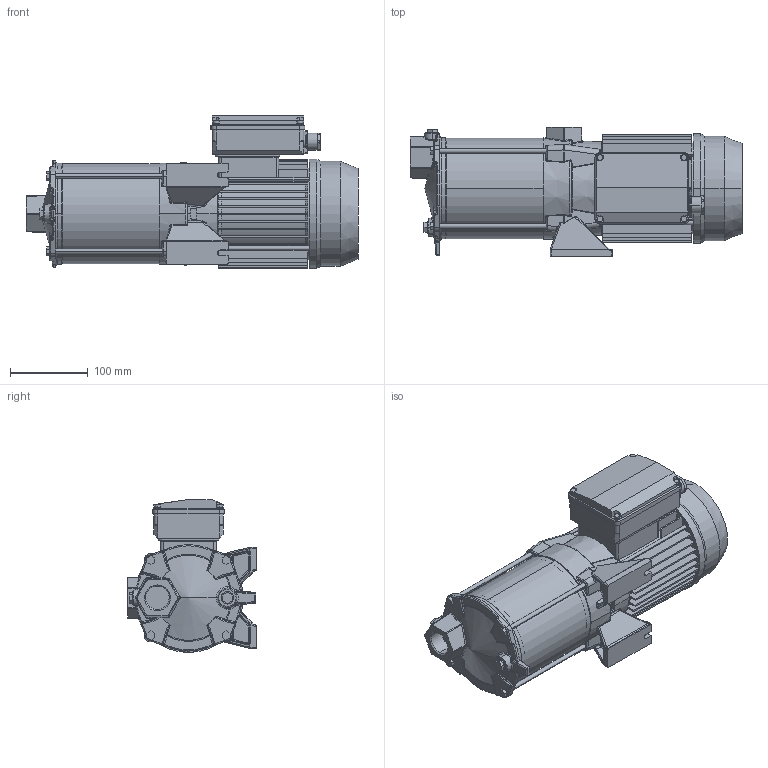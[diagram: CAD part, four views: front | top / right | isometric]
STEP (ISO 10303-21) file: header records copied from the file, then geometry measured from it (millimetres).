
FILE_DESCRIPTION((''),'2;1');
FILE_NAME('COMPACT_AM-10_ASM','2019-09-25T',('rosa'),('"Ebara Pumps Europe +39.444.706811"'),'PRO/ENGINEER BY PARAMETRIC TECHNOLOGY CORPORATION, 2017170','PRO/ENGINEER BY PARAMETRIC TECHNOLOGY CORPORATION, 2017170','');
FILE_SCHEMA(('AUTOMOTIVE_DESIGN { 1 0 10303 214 1 1 1 1 }'));
Length unit declared in the file: millimetre
Products named in the file (7): 80585; MEC_71_PACCO_90_MONOFASE; COPRIMORS_MEC63_E3_SENZA_INT; 2710X_L-124_8; 20998; 40012_M6X160; COMPACT_AM-10_ASM
Assembly tree (9 placements, depth 2):
  COMPACT_AM-10_ASM
    80585
    MEC_71_PACCO_90_MONOFASE
    COPRIMORS_MEC63_E3_SENZA_INT
    2710X_L-124_8
    20998
    40012_M6X160  x4
Bounding box: 427.3 x 166 x 196.8 mm (x, y, z)
Volume: 3205919.1 mm3; surface area: 555201.1 mm2
Topology: 9 solids, 9 shells, 1375 faces, 3265 edges, 1938 vertices
Faces by surface type: plane 471, cylinder 379, bspline 324, cone 100, torus 64, sphere 37
Entity records: 64554 total; most frequent: CARTESIAN_POINT 25043, ORIENTED_EDGE 6382, DIRECTION 5552, PRESENTATION_STYLE_ASSIGNMENT 3198, STYLED_ITEM 3197, CURVE_STYLE 3191, EDGE_CURVE 3191, AXIS2_PLACEMENT_3D 2158
